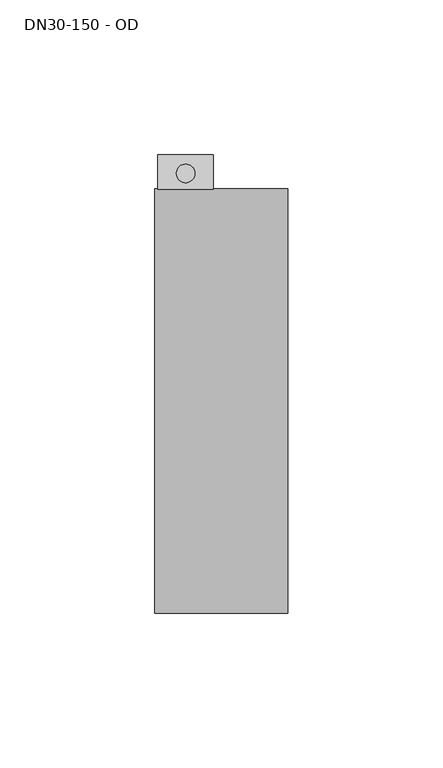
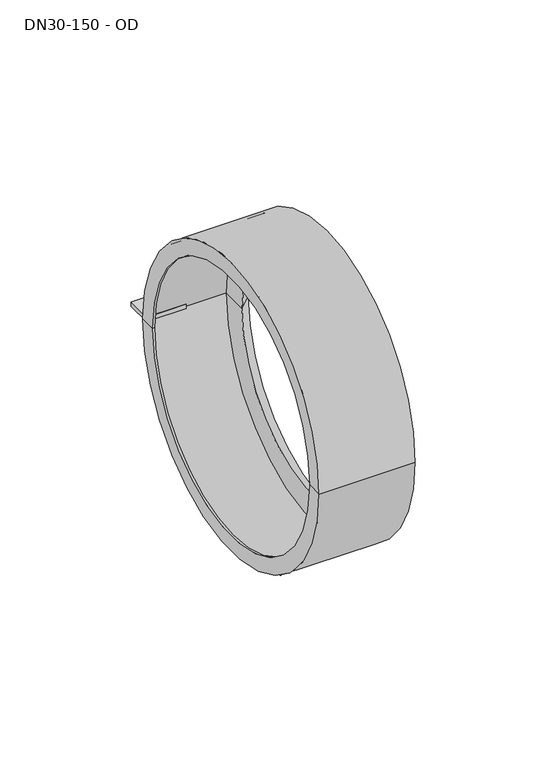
"""IFC4 building model written with IfcOpenShell, lengths in millimetres: pipe fitting geometry, NLRS_52_PIF_UN_Geberit fixatieklauw_PRO_223189 : DN30-150 - OD."""

from ifc_helpers import new_model, si_unit, frame, origin, place, context, project, spatial, polyline, circle_curve, source, transform, mapped, element, save
from ifc_brep_helpers import plane_surface, cylinder_surface, revolved_surface, advanced_brep


def dn30_150_od_f6babe6b(model_context):
    return source(origin(), model_context, "Body", "AdvancedBrep", [
        advanced_brep(
        [(17.8704524, 67.5, -1.0), (0.0, 67.5, -1.0), (0.0, 79.5, -1.0), (17.8704524, 79.5, -1.0), (5.9352262, 73.5, -1.0), (11.9352262, 73.5, -1.0), (17.8704524, 67.5, 1.0), (17.8704524, 79.5, 1.0), (0.0, 79.5, 1.0), (0.0, 67.5, 1.0), (11.9352262, 73.5, 1.0), (5.9352262, 73.5, 1.0), (5.9352262, 73.5, -10.0), (11.9352262, 73.5, -10.0), (5.9352262, 73.5, 2.0), (11.9352262, 73.5, 2.0)],
        [
            (0, 1),
            (1, 2),
            (2, 3),
            (3, 0),
            (4, 5, circle_curve(frame((8.9352262, 73.5, -1.0), z_axis=(0.0, 0.0, 1.0), x_axis=(1.0, 0.0, 0.0)), 3.0)),
            (5, 4, circle_curve(frame((8.9352262, 73.5, -1.0), z_axis=(0.0, 0.0, 1.0), x_axis=(1.0, 0.0, 0.0)), 3.0)),
            (6, 7),
            (7, 8),
            (8, 9),
            (9, 6),
            (10, 11, circle_curve(frame((8.9352262, 73.5, 1.0), z_axis=(0.0, 0.0, -1.0), x_axis=(1.0, 0.0, 0.0)), 3.0)),
            (11, 10, circle_curve(frame((8.9352262, 73.5, 1.0), z_axis=(0.0, 0.0, -1.0), x_axis=(1.0, 0.0, 0.0)), 3.0)),
            (3, 7),
            (6, 0),
            (2, 8),
            (1, 9),
            (12, 13, circle_curve(frame((8.9352262, 73.5, -10.0), z_axis=(0.0, 0.0, -1.0), x_axis=(1.0, 0.0, 0.0)), 3.0)),
            (13, 12, circle_curve(frame((8.9352262, 73.5, -10.0), z_axis=(0.0, 0.0, -1.0), x_axis=(1.0, 0.0, 0.0)), 3.0)),
            (14, 15, circle_curve(frame((8.9352262, 73.5, 2.0), z_axis=(0.0, 0.0, 1.0), x_axis=(1.0, 0.0, 0.0)), 3.0)),
            (15, 14, circle_curve(frame((8.9352262, 73.5, 2.0), z_axis=(0.0, 0.0, 1.0), x_axis=(1.0, 0.0, 0.0)), 3.0)),
            (13, 5),
            (4, 12),
            (14, 11),
            (10, 15),
        ],
        [
            plane_surface(frame((17.8704524, 67.5, -1.0), z_axis=(0.0, 0.0, -1.0), x_axis=(0.0, -1.0, 0.0))),
            plane_surface(frame((17.8704524, 67.5, 1.0), z_axis=(0.0, 0.0, 1.0), x_axis=(0.0, 1.0, 0.0))),
            plane_surface(frame((17.8704524, 67.5, 1.0), z_axis=(1.0, 0.0, 0.0), x_axis=(0.0, 0.0, -1.0))),
            plane_surface(frame((17.8704524, 79.5, 1.0), z_axis=(0.0, 1.0, 0.0), x_axis=(0.0, 0.0, -1.0))),
            plane_surface(frame((0.0, 79.5, 1.0), z_axis=(-1.0, 0.0, 0.0), x_axis=(0.0, 0.0, -1.0))),
            plane_surface(frame((0.0, 67.5, 1.0), z_axis=(0.0, -1.0, 0.0), x_axis=(0.0, 0.0, -1.0))),
            plane_surface(frame((11.9352262, 73.5, -10.0), z_axis=(0.0, 0.0, -1.0), x_axis=(0.0, -1.0, 0.0))),
            plane_surface(frame((11.9352262, 73.5, 2.0), z_axis=(0.0, 0.0, 1.0), x_axis=(0.0, 1.0, 0.0))),
            cylinder_surface(frame((8.9352262, 73.5, -10.0), z_axis=(0.0, 0.0, 1.0), x_axis=(1.0, 0.0, 0.0)), 3.0),
        ],
        [
            (0, [[1, 2, 3, 4], [5, 6]]),
            (1, [[7, 8, 9, 10], [11, 12]]),
            (2, [[-4, 13, -7, 14]]),
            (3, [[-3, 15, -8, -13]]),
            (4, [[-2, 16, -9, -15]]),
            (5, [[-1, -14, -10, -16]]),
            (6, [[17, 18]]),
            (7, [[19, 20]]),
            (8, [[-18, 21, -5, 22]]),
            (8, [[-19, 23, -11, 24]]),
            (8, [[-17, -22, -6, -21]]),
            (8, [[-20, -24, -12, -23]]),
        ],
    ),
        advanced_brep(
        [(35.7409047, -67.5, 0.0), (35.7409047, 67.5, 0.0), (0.0, 67.5, 0.0), (0.0, -67.5, 0.0), (42.0, -68.5, 0.0), (42.0, 68.5, 0.0), (42.0, 61.25, 0.0), (42.0, -61.25, 0.0), (-1.0, -68.5, 0.0), (-1.0, 68.5, 0.0), (-1.0, -61.25, 0.0), (-1.0, 61.25, 0.0), (0.0, -61.25, 0.0), (0.0, 61.25, 0.0), (35.7409047, -54.9909047, 0.0), (35.7409047, 54.9909047, 0.0)],
        [
            (0, 1, circle_curve(frame((35.7409047, 0.0, 0.0), z_axis=(1.0, 0.0, 0.0), x_axis=(0.0, 1.0, 0.0)), 67.5)),
            (1, 2),
            (2, 3, circle_curve(frame((0.0, 0.0, 0.0), z_axis=(-1.0, 0.0, 0.0), x_axis=(0.0, 1.0, 0.0)), 67.5)),
            (3, 0),
            (1, 0, circle_curve(frame((35.7409047, 0.0, 0.0), z_axis=(1.0, 0.0, 0.0), x_axis=(0.0, 1.0, 0.0)), 67.5)),
            (3, 2, circle_curve(frame((0.0, 0.0, 0.0), z_axis=(-1.0, 0.0, 0.0), x_axis=(0.0, 1.0, 0.0)), 67.5)),
            (4, 5, circle_curve(frame((42.0, 0.0, 0.0), z_axis=(1.0, 0.0, 0.0), x_axis=(0.0, 1.0, 0.0)), 68.5)),
            (5, 6),
            (6, 7, circle_curve(frame((42.0, 0.0, 0.0), z_axis=(-1.0, 0.0, 0.0), x_axis=(0.0, 1.0, 0.0)), 61.25)),
            (7, 4),
            (5, 4, circle_curve(frame((42.0, 0.0, 0.0), z_axis=(1.0, 0.0, 0.0), x_axis=(0.0, 1.0, 0.0)), 68.5)),
            (7, 6, circle_curve(frame((42.0, 0.0, 0.0), z_axis=(-1.0, 0.0, 0.0), x_axis=(0.0, 1.0, 0.0)), 61.25)),
            (8, 9, circle_curve(frame((-1.0, 0.0, 0.0), z_axis=(1.0, 0.0, 0.0), x_axis=(0.0, 1.0, 0.0)), 68.5)),
            (9, 5),
            (4, 8),
            (9, 8, circle_curve(frame((-1.0, 0.0, 0.0), z_axis=(1.0, 0.0, 0.0), x_axis=(0.0, 1.0, 0.0)), 68.5)),
            (10, 11, circle_curve(frame((-1.0, 0.0, 0.0), z_axis=(1.0, 0.0, 0.0), x_axis=(0.0, 1.0, 0.0)), 61.25)),
            (11, 9),
            (8, 10),
            (11, 10, circle_curve(frame((-1.0, 0.0, 0.0), z_axis=(1.0, 0.0, 0.0), x_axis=(0.0, 1.0, 0.0)), 61.25)),
            (12, 13, circle_curve(frame((0.0, 0.0, 0.0), z_axis=(1.0, 0.0, 0.0), x_axis=(0.0, 1.0, 0.0)), 61.25)),
            (13, 11),
            (10, 12),
            (13, 12, circle_curve(frame((0.0, 0.0, 0.0), z_axis=(1.0, 0.0, 0.0), x_axis=(0.0, 1.0, 0.0)), 61.25)),
            (2, 13),
            (12, 3),
            (14, 15, circle_curve(frame((35.7409047, 0.0, 0.0), z_axis=(1.0, 0.0, 0.0), x_axis=(0.0, 1.0, 0.0)), 54.9909047)),
            (15, 1),
            (0, 14),
            (15, 14, circle_curve(frame((35.7409047, 0.0, 0.0), z_axis=(1.0, 0.0, 0.0), x_axis=(0.0, 1.0, 0.0)), 54.9909047)),
            (6, 15),
            (14, 7),
        ],
        [
            revolved_surface(polyline([(0.0, 67.5, 0.0), (35.7409047, 67.5, 0.0)]), (-5.2205758, 0.0, 0.0), (-1.0, 0.0, 0.0)),
            plane_surface(frame((42.0, 0.0, 0.0), z_axis=(1.0, 0.0, 0.0), x_axis=(0.0, 1.0, 0.0))),
            cylinder_surface(frame((-5.2205758, 0.0, 0.0), z_axis=(-1.0, 0.0, 0.0), x_axis=(0.0, 1.0, 0.0)), 68.5),
            plane_surface(frame((-1.0, 0.0, 0.0), z_axis=(-1.0, 0.0, 0.0), x_axis=(0.0, 1.0, 0.0))),
            revolved_surface(polyline([(-1.0, 61.25, 0.0), (0.0, 61.25, 0.0)]), (-5.2205758, 0.0, 0.0), (-1.0, 0.0, 0.0)),
            plane_surface(frame((0.0, 0.0, 0.0), z_axis=(1.0, 0.0, 0.0), x_axis=(0.0, 1.0, 0.0))),
            plane_surface(frame((35.7409047, 0.0, 0.0), z_axis=(-1.0, 0.0, 0.0), x_axis=(0.0, 1.0, 0.0))),
            revolved_surface(polyline([(35.7409047, 54.9909047, 0.0), (42.0, 61.25, 0.0)]), (-5.2205758, 0.0, 0.0), (-1.0, 0.0, 0.0)),
        ],
        [
            (0, [[1, 2, 3, 4]]),
            (0, [[5, -4, 6, -2]]),
            (1, [[7, 8, 9, 10]]),
            (1, [[11, -10, 12, -8]]),
            (2, [[13, 14, -7, 15]]),
            (2, [[16, -15, -11, -14]]),
            (3, [[17, 18, -13, 19]]),
            (3, [[20, -19, -16, -18]]),
            (4, [[21, 22, -17, 23]]),
            (4, [[24, -23, -20, -22]]),
            (5, [[-3, 25, -21, 26]]),
            (5, [[-6, -26, -24, -25]]),
            (6, [[27, 28, -1, 29]]),
            (6, [[30, -29, -5, -28]]),
            (7, [[-9, 31, -27, 32]]),
            (7, [[-12, -32, -30, -31]]),
        ],
    ),
    ])


if __name__ == "__main__":
    model = new_model("IFC4")
    model_context = context("Model", 3, world=origin())
    ifc_project = project(units=[si_unit("LENGTHUNIT", "METRE", prefix="MILLI")], contexts=[model_context])
    site = spatial("IfcSite", under=ifc_project)
    building = spatial("IfcBuilding", under=site)
    placement = place(None, origin())
    dn30_150_od_shape = dn30_150_od_f6babe6b(model_context)
    element("IfcPipeFitting", 1, ObjectType="NLRS_52_PIF_UN_Geberit fixatieklauw_PRO_223189 : DN30-150 - OD", at=placement, inside=building, context=model_context, shape_type="MappedRepresentation", body=[
        mapped(dn30_150_od_shape, transform((0.0, 0.0, 0.0), x_axis=(1.0, 0.0, 0.0), y_axis=(0.0, 1.0, 0.0), z_axis=(0.0, 0.0, 1.0))),
    ])
    save(model, "model.ifc")
